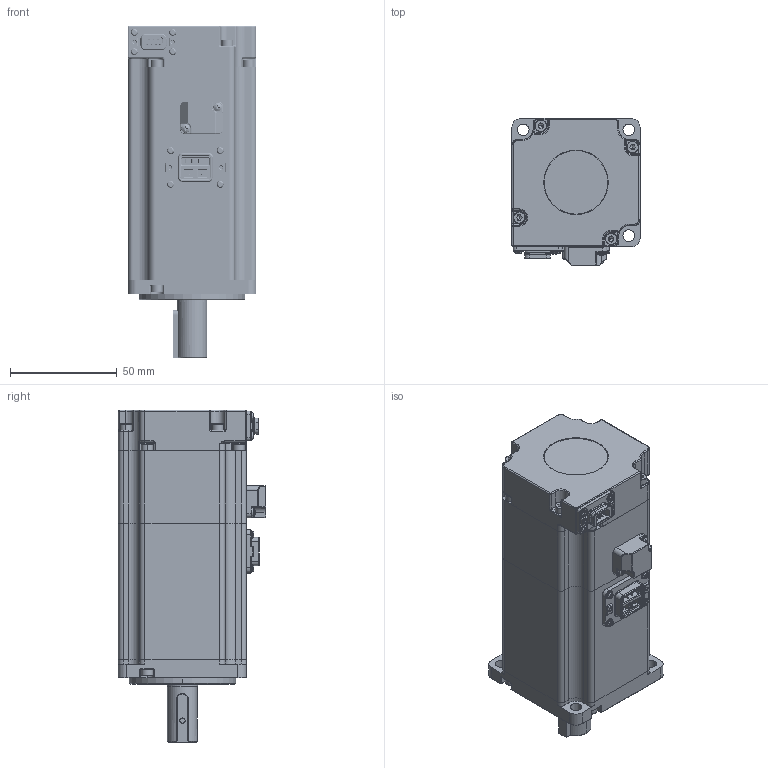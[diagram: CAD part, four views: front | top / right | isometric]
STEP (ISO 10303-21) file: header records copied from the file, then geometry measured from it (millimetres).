
FILE_DESCRIPTION (( 'STEP AP214' ), '1' );
FILE_NAME ('V7E-L06A-R4030-D2.STEP', '2021-08-05T08:38:49', ( '' ), ( '' ), 'SwSTEP 2.0', 'SolidWorks 2014', '' );
FILE_SCHEMA (( 'AUTOMOTIVE_DESIGN' ));
Length unit declared in the file: millimetre
Products named in the file (25): 坋趼苤攫芛ISO 7045 - M2 x 5; す菜 M3; 普通型 平键   C 5x5x22.5 带M3起键螺钉孔; 10-26-8粣創; 坋趼苤攫芛ISO 7045 - M2 x 5201611; 40#价陬裔躇猾菜; 囀鞠褒 ISO 4762 M3 x 8 --- 8N; o型圈--内径53.31直径1.7; 15-32-9粣創; 60_400W儂褲-201126; 囀鞠褒 ISO 4762 M3 x 12 --- 12N; SC40陔晤鎢ん瑤脣釱sc-mc7p-a6-zhichuxianchazuo; 60#价陬粣-38沺郋; 囀鞠褒 ISO 4762 M4 x 12 --- 12N; 蚐猾 D00B999YF2-TC 15-22-5; 40#价陬堤盄揤盄裔; 60#晤鎢ん欶躇猾菜; 60陔晤鎢ん綴欶-201126; V7E-L06A-R4030-D2; 60-80蚳蚚雄薯脣釱-sc-mc6p-ac-goubanchazuo; 400W-隅赽郪璃-201126; 囀鞠褒 _ISO 4762 M3 x 40; 粟菜 M3; ヶ傷裔_60價釱-201126; 价陬綴傷裔_60價釱
Assembly tree (35 placements, depth 3):
  V7E-L06A-R4030-D2
    400W-隅赽郪璃-201126
      ヶ傷裔_60價釱-201126
      60_400W儂褲-201126
    价陬綴傷裔_60價釱
    10-26-8粣創
    15-32-9粣創
    o型圈--内径53.31直径1.7  x2
    60#晤鎢ん欶躇猾菜
    60陔晤鎢ん綴欶-201126
    SC40陔晤鎢ん瑤脣釱sc-mc7p-a6-zhichuxianchazuo
    蚐猾 D00B999YF2-TC 15-22-5
    40#价陬堤盄揤盄裔
    40#价陬裔躇猾菜
    囀鞠褒 ISO 4762 M4 x 12 --- 12N
    囀鞠褒 ISO 4762 M3 x 8 --- 8N
    粟菜 M3
    す菜 M3
    囀鞠褒 ISO 4762 M3 x 12 --- 12N  x8
    坋趼苤攫芛ISO 7045 - M2 x 5201611
    坋趼苤攫芛ISO 7045 - M2 x 5
    囀鞠褒 _ISO 4762 M3 x 40  x4
    60-80蚳蚚雄薯脣釱-sc-mc6p-ac-goubanchazuo
    普通型 平键   C 5x5x22.5 带M3起键螺钉孔
    60#价陬粣-38沺郋
Bounding box: 60 x 69 x 155.5 mm (x, y, z)
Volume: 174296.7 mm3; surface area: 110218.9 mm2
Topology: 43 solids, 43 shells, 4417 faces, 11189 edges, 6879 vertices
Faces by surface type: plane 1992, cylinder 1430, bspline 520, cone 256, torus 173, sphere 46
Entity records: 156313 total; most frequent: CARTESIAN_POINT 54856, ORIENTED_EDGE 21008, DIRECTION 19667, EDGE_CURVE 10504, AXIS2_PLACEMENT_3D 6882, VERTEX_POINT 6543, LINE 5903, VECTOR 5903
